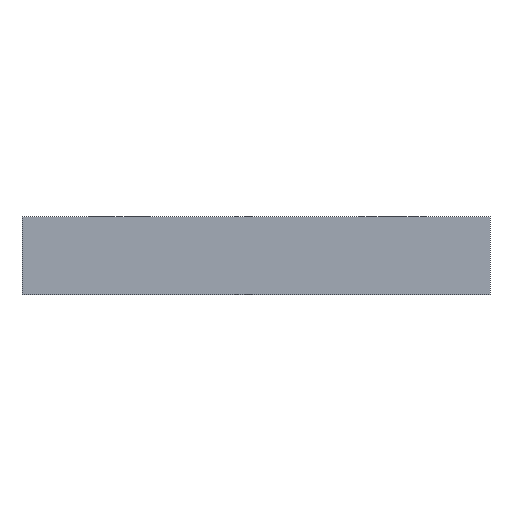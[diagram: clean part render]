
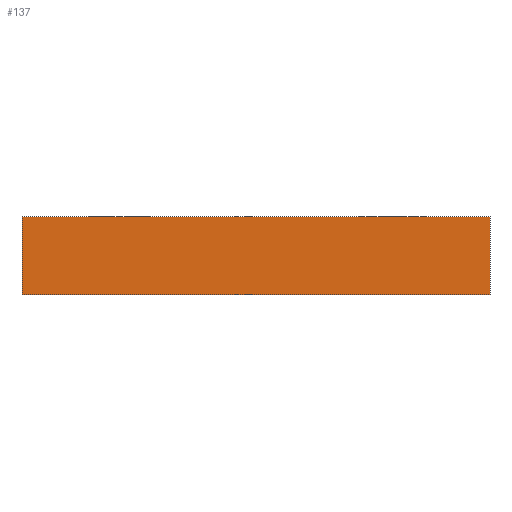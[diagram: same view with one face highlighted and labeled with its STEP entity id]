
A CAD part, front view. The second image highlights one B-rep face of the part: STEP entity #137.
In plain terms, the highlighted planar face has unit normal (0, -1, 0).
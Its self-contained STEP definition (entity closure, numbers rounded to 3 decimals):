
#21 = EDGE_CURVE('',#22,#24,#26,.T.);
#22 = VERTEX_POINT('',#23);
#23 = CARTESIAN_POINT('',(23.,-8.,49.));
#24 = VERTEX_POINT('',#25);
#25 = CARTESIAN_POINT('',(23.,-8.,53.));
#26 = SURFACE_CURVE('',#27,(#31,#43),.PCURVE_S1.);
#27 = LINE('',#28,#29);
#28 = CARTESIAN_POINT('',(23.,-8.,49.));
#29 = VECTOR('',#30,1.);
#30 = DIRECTION('',(0.,0.,1.));
#31 = PCURVE('',#32,#37);
#32 = PLANE('',#33);
#33 = AXIS2_PLACEMENT_3D('',#34,#35,#36);
#34 = CARTESIAN_POINT('',(23.,-8.,49.));
#35 = DIRECTION('',(1.,0.,0.));
#36 = DIRECTION('',(0.,0.,1.));
#37 = DEFINITIONAL_REPRESENTATION('',(#38),#42);
#38 = LINE('',#39,#40);
#39 = CARTESIAN_POINT('',(0.,0.));
#40 = VECTOR('',#41,1.);
#41 = DIRECTION('',(1.,0.));
#42 = ( GEOMETRIC_REPRESENTATION_CONTEXT(2) 
PARAMETRIC_REPRESENTATION_CONTEXT() REPRESENTATION_CONTEXT('2D SPACE',''
  ) );
#43 = PCURVE('',#44,#49);
#44 = PLANE('',#45);
#45 = AXIS2_PLACEMENT_3D('',#46,#47,#48);
#46 = CARTESIAN_POINT('',(23.,-8.,49.));
#47 = DIRECTION('',(0.,1.,0.));
#48 = DIRECTION('',(0.,0.,1.));
#49 = DEFINITIONAL_REPRESENTATION('',(#50),#54);
#50 = LINE('',#51,#52);
#51 = CARTESIAN_POINT('',(0.,0.));
#52 = VECTOR('',#53,1.);
#53 = DIRECTION('',(1.,0.));
#54 = ( GEOMETRIC_REPRESENTATION_CONTEXT(2) 
PARAMETRIC_REPRESENTATION_CONTEXT() REPRESENTATION_CONTEXT('2D SPACE',''
  ) );
#72 = PLANE('',#73);
#73 = AXIS2_PLACEMENT_3D('',#74,#75,#76);
#74 = CARTESIAN_POINT('',(23.,-8.,49.));
#75 = DIRECTION('',(0.,0.,1.));
#76 = DIRECTION('',(1.,0.,0.));
#126 = PLANE('',#127);
#127 = AXIS2_PLACEMENT_3D('',#128,#129,#130);
#128 = CARTESIAN_POINT('',(23.,-8.,53.));
#129 = DIRECTION('',(0.,0.,1.));
#130 = DIRECTION('',(1.,0.,0.));
#137 = ADVANCED_FACE('',(#138),#44,.F.);
#138 = FACE_BOUND('',#139,.F.);
#139 = EDGE_LOOP('',(#140,#163,#164,#187));
#140 = ORIENTED_EDGE('',*,*,#141,.F.);
#141 = EDGE_CURVE('',#22,#142,#144,.T.);
#142 = VERTEX_POINT('',#143);
#143 = CARTESIAN_POINT('',(47.,-8.,49.));
#144 = SURFACE_CURVE('',#145,(#149,#156),.PCURVE_S1.);
#145 = LINE('',#146,#147);
#146 = CARTESIAN_POINT('',(23.,-8.,49.));
#147 = VECTOR('',#148,1.);
#148 = DIRECTION('',(1.,0.,0.));
#149 = PCURVE('',#44,#150);
#150 = DEFINITIONAL_REPRESENTATION('',(#151),#155);
#151 = LINE('',#152,#153);
#152 = CARTESIAN_POINT('',(0.,0.));
#153 = VECTOR('',#154,1.);
#154 = DIRECTION('',(0.,1.));
#155 = ( GEOMETRIC_REPRESENTATION_CONTEXT(2) 
PARAMETRIC_REPRESENTATION_CONTEXT() REPRESENTATION_CONTEXT('2D SPACE',''
  ) );
#156 = PCURVE('',#72,#157);
#157 = DEFINITIONAL_REPRESENTATION('',(#158),#162);
#158 = LINE('',#159,#160);
#159 = CARTESIAN_POINT('',(0.,0.));
#160 = VECTOR('',#161,1.);
#161 = DIRECTION('',(1.,0.));
#162 = ( GEOMETRIC_REPRESENTATION_CONTEXT(2) 
PARAMETRIC_REPRESENTATION_CONTEXT() REPRESENTATION_CONTEXT('2D SPACE',''
  ) );
#163 = ORIENTED_EDGE('',*,*,#21,.T.);
#164 = ORIENTED_EDGE('',*,*,#165,.T.);
#165 = EDGE_CURVE('',#24,#166,#168,.T.);
#166 = VERTEX_POINT('',#167);
#167 = CARTESIAN_POINT('',(47.,-8.,53.));
#168 = SURFACE_CURVE('',#169,(#173,#180),.PCURVE_S1.);
#169 = LINE('',#170,#171);
#170 = CARTESIAN_POINT('',(23.,-8.,53.));
#171 = VECTOR('',#172,1.);
#172 = DIRECTION('',(1.,0.,0.));
#173 = PCURVE('',#44,#174);
#174 = DEFINITIONAL_REPRESENTATION('',(#175),#179);
#175 = LINE('',#176,#177);
#176 = CARTESIAN_POINT('',(4.,0.));
#177 = VECTOR('',#178,1.);
#178 = DIRECTION('',(0.,1.));
#179 = ( GEOMETRIC_REPRESENTATION_CONTEXT(2) 
PARAMETRIC_REPRESENTATION_CONTEXT() REPRESENTATION_CONTEXT('2D SPACE',''
  ) );
#180 = PCURVE('',#126,#181);
#181 = DEFINITIONAL_REPRESENTATION('',(#182),#186);
#182 = LINE('',#183,#184);
#183 = CARTESIAN_POINT('',(0.,0.));
#184 = VECTOR('',#185,1.);
#185 = DIRECTION('',(1.,0.));
#186 = ( GEOMETRIC_REPRESENTATION_CONTEXT(2) 
PARAMETRIC_REPRESENTATION_CONTEXT() REPRESENTATION_CONTEXT('2D SPACE',''
  ) );
#187 = ORIENTED_EDGE('',*,*,#188,.F.);
#188 = EDGE_CURVE('',#142,#166,#189,.T.);
#189 = SURFACE_CURVE('',#190,(#194,#201),.PCURVE_S1.);
#190 = LINE('',#191,#192);
#191 = CARTESIAN_POINT('',(47.,-8.,49.));
#192 = VECTOR('',#193,1.);
#193 = DIRECTION('',(0.,0.,1.));
#194 = PCURVE('',#44,#195);
#195 = DEFINITIONAL_REPRESENTATION('',(#196),#200);
#196 = LINE('',#197,#198);
#197 = CARTESIAN_POINT('',(0.,24.));
#198 = VECTOR('',#199,1.);
#199 = DIRECTION('',(1.,0.));
#200 = ( GEOMETRIC_REPRESENTATION_CONTEXT(2) 
PARAMETRIC_REPRESENTATION_CONTEXT() REPRESENTATION_CONTEXT('2D SPACE',''
  ) );
#201 = PCURVE('',#202,#207);
#202 = PLANE('',#203);
#203 = AXIS2_PLACEMENT_3D('',#204,#205,#206);
#204 = CARTESIAN_POINT('',(47.,-8.,49.));
#205 = DIRECTION('',(1.,0.,0.));
#206 = DIRECTION('',(0.,0.,1.));
#207 = DEFINITIONAL_REPRESENTATION('',(#208),#212);
#208 = LINE('',#209,#210);
#209 = CARTESIAN_POINT('',(0.,0.));
#210 = VECTOR('',#211,1.);
#211 = DIRECTION('',(1.,0.));
#212 = ( GEOMETRIC_REPRESENTATION_CONTEXT(2) 
PARAMETRIC_REPRESENTATION_CONTEXT() REPRESENTATION_CONTEXT('2D SPACE',''
  ) );
